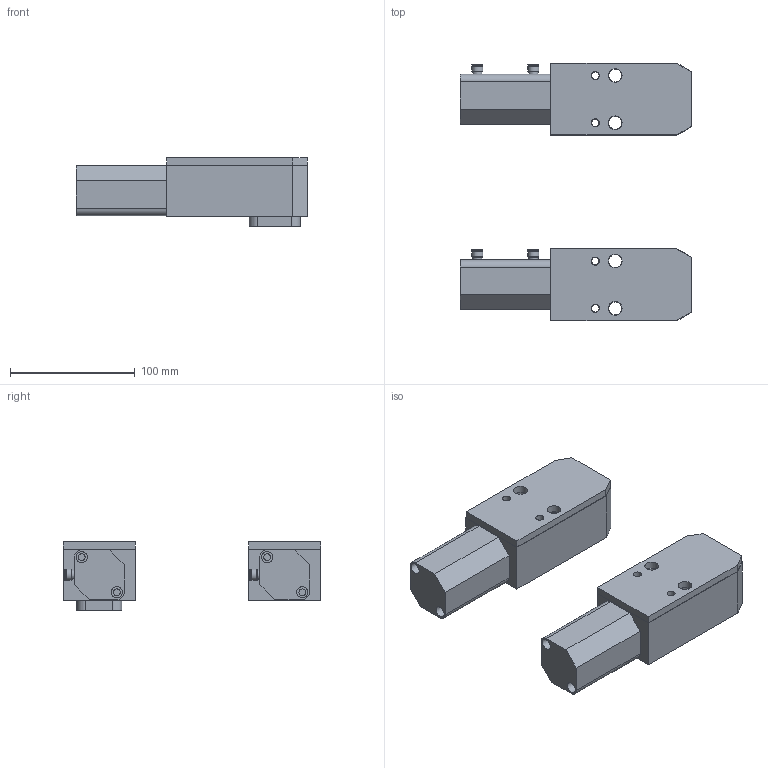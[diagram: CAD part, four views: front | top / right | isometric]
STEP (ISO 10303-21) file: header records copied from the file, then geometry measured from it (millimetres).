
FILE_DESCRIPTION(('STEP AP214'),'1');
FILE_NAME('1002.0020.stp','2020-05-22T14:12:27',(' '),(' '),'Spatial InterOp 3D',' ',' ');
FILE_SCHEMA(('AUTOMOTIVE_DESIGN { 1 0 10303 214 1 1 1 1 }'));
Length unit declared in the file: millimetre
Products named in the file (7): (PMS) 1002.0020; 3; 1; Assemblato; (PMI) 1002.0020; 6; 4
Assembly tree (6 placements, depth 3):
  Assemblato
    (PMS) 1002.0020
      3
      1
    (PMI) 1002.0020
      6
      4
Bounding box: 186 x 207 x 55 mm (x, y, z)
Volume: 753038.6 mm3; surface area: 131368.4 mm2
Topology: 4 solids, 4 shells, 792 faces, 2102 edges, 1400 vertices
Faces by surface type: extrusion 402, plane 266, cylinder 106, torus 12, cone 4, sphere 2
Full cylindrical faces by diameter (mm): 5.5 x4, 6 x4, 6.5 x4, 6.8 x4, 7.5 x8, 9 x12, 10.5 x4, 11 x4, 16.9 x4, 20 x2
Entity records: 31160 total; most frequent: CARTESIAN_POINT 6685, ORIENTED_EDGE 4028, DIRECTION 2636, EDGE_CURVE 2014, VECTOR 1382, VERTEX_POINT 1382, B_SPLINE_CURVE_WITH_KNOTS 1208, LINE 980
